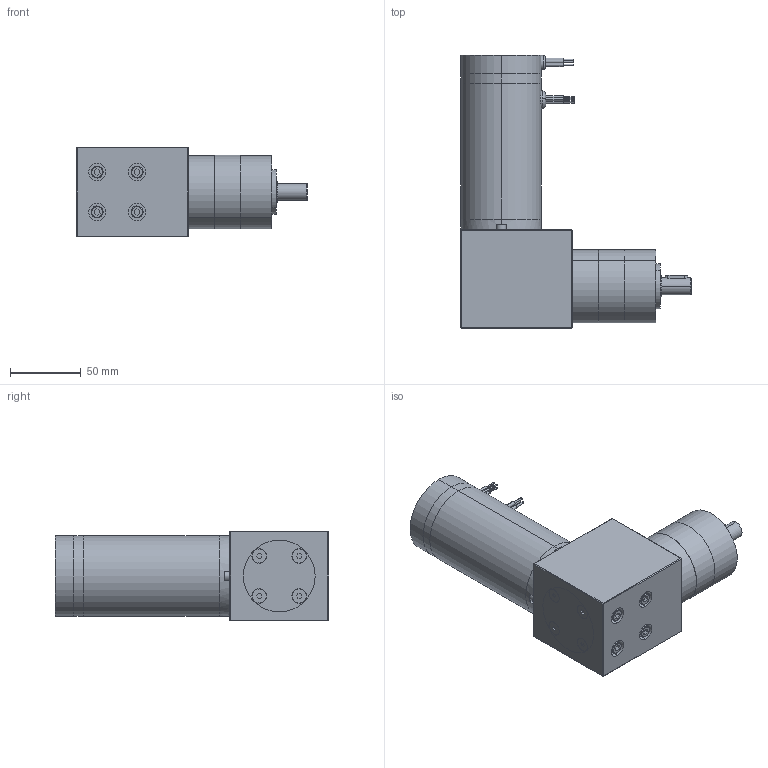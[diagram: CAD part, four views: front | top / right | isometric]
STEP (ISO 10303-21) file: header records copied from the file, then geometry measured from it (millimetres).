
FILE_DESCRIPTION (( 'STEP AP203' ), '1' );
FILE_NAME ('bl58487gra2.step', '2018-12-07T19:03:08', ( '' ), ( '' ), 'SwSTEP 2.0', 'SolidWorks 2017', '' );
FILE_SCHEMA (( 'CONFIG_CONTROL_DESIGN' ));
Length unit declared in the file: inch
Products named in the file (1): bl58487gra2
Bounding box: 163.27 x 193.47 x 63.5 mm (x, y, z)
Volume: 786871.2 mm3; surface area: 127285.5 mm2
Topology: 30 solids, 30 shells, 977 faces, 2170 edges, 1310 vertices
Faces by surface type: cylinder 360, cone 345, plane 267, torus 5
Entity records: 27079 total; most frequent: DIRECTION 5142, CARTESIAN_POINT 4636, ORIENTED_EDGE 4292, EDGE_CURVE 2146, AXIS2_PLACEMENT_3D 2030, VERTEX_POINT 1310, EDGE_LOOP 1100, LINE 1082
